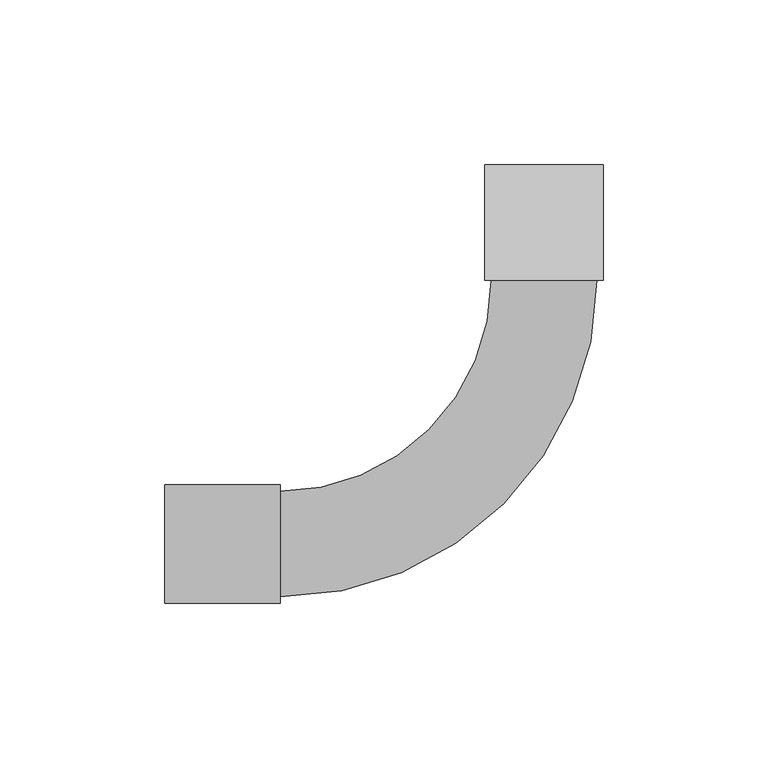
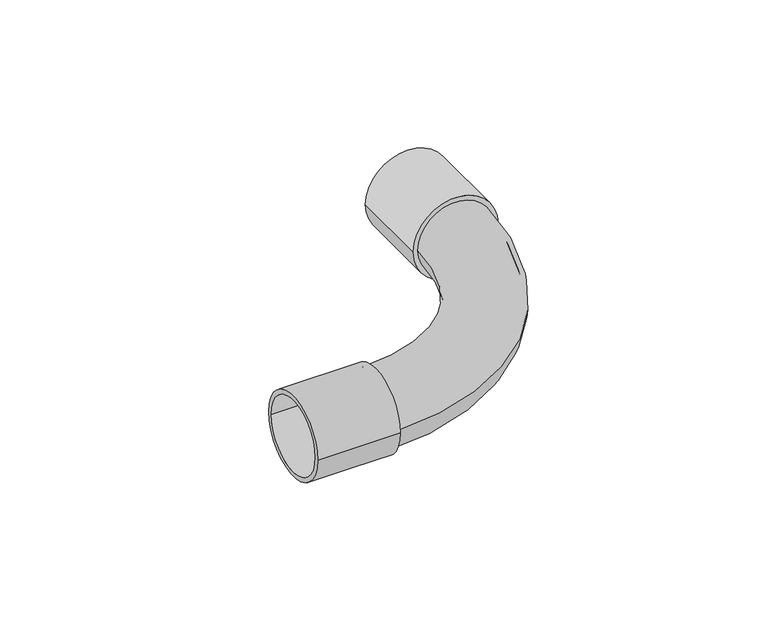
"""IFC4 building model written with IfcOpenShell, lengths in millimetres: cable carrier fitting geometry."""

from ifc_helpers import new_model, si_unit, point, frame, origin, origin_2d, place, context, project, spatial, circle_curve, ellipse_curve, trimmed, segment, composite_curve, outline, extrude, source, transform, mapped, element, save
from ifc_brep_helpers import plane_surface, revolved_surface, advanced_brep


def cable_carrier_fitting_b4ac2e59(model_context):
    return source(origin(), model_context, "Body", "SolidModel", [
        advanced_brep(
        [(-80.0, -16.0, 0.0), (-80.0, 16.0, 0.0), (-80.0, -14.0, 0.0), (-80.0, 14.0, 0.0), (16.0, 80.0, 0.0), (-16.0, 80.0, 0.0), (14.0, 80.0, 0.0), (-14.0, 80.0, 0.0)],
        [
            (0, 1, circle_curve(frame((-80.0, 0.0, 0.0), z_axis=(-1.0, 0.0, 0.0), x_axis=(0.0, 1.0, 0.0)), 16.0)),
            (1, 0, circle_curve(frame((-80.0, 0.0, 0.0), z_axis=(-1.0, 0.0, 0.0), x_axis=(0.0, 1.0, 0.0)), 16.0)),
            (2, 3, circle_curve(frame((-80.0, 0.0, 0.0), z_axis=(1.0, 0.0, 0.0), x_axis=(0.0, 1.0, 0.0)), 14.0)),
            (3, 2, circle_curve(frame((-80.0, 0.0, 0.0), z_axis=(1.0, 0.0, 0.0), x_axis=(0.0, 1.0, 0.0)), 14.0)),
            (4, 5, circle_curve(frame((0.0, 80.0, 0.0), z_axis=(0.0, 1.0, 0.0), x_axis=(-1.0, 0.0, 0.0)), 16.0)),
            (5, 4, circle_curve(frame((0.0, 80.0, 0.0), z_axis=(0.0, 1.0, 0.0), x_axis=(-1.0, 0.0, 0.0)), 16.0)),
            (6, 7, circle_curve(frame((0.0, 80.0, 0.0), z_axis=(0.0, -1.0, 0.0), x_axis=(-1.0, 0.0, 0.0)), 14.0)),
            (7, 6, circle_curve(frame((0.0, 80.0, 0.0), z_axis=(0.0, -1.0, 0.0), x_axis=(-1.0, 0.0, 0.0)), 14.0)),
            (5, 1, circle_curve(frame((-80.0, 80.0, 0.0), z_axis=(0.0, 0.0, -1.0), x_axis=(0.0, -1.0, 0.0)), 64.0)),
            (0, 4, circle_curve(frame((-80.0, 80.0, 0.0), z_axis=(0.0, 0.0, 1.0), x_axis=(0.0, -1.0, 0.0)), 96.0)),
            (7, 3, circle_curve(frame((-80.0, 80.0, 0.0), z_axis=(0.0, 0.0, -1.0), x_axis=(0.0, -1.0, 0.0)), 66.0)),
            (2, 6, circle_curve(frame((-80.0, 80.0, 0.0), z_axis=(0.0, 0.0, 1.0), x_axis=(0.0, -1.0, 0.0)), 94.0)),
        ],
        [
            plane_surface(frame((-80.0, 0.0, 0.0), z_axis=(-1.0, 0.0, 0.0), x_axis=(0.0, 0.0, 1.0))),
            plane_surface(frame((0.0, 80.0, 0.0), z_axis=(0.0, 1.0, 0.0), x_axis=(0.0, 0.0, 1.0))),
            revolved_surface(trimmed(ellipse_curve(frame((-80.0, 0.0, 0.0), z_axis=(-1.0, 0.0, 0.0), x_axis=(0.0, 1.0, 0.0)), 16.0, 16.0), [point((-80.0, -16.0, 0.0))], [point((-80.0, 16.0, 0.0))], True, "CARTESIAN"), (-80.0, 80.0, 0.0), (0.0, 0.0, 1.0)),
            revolved_surface(trimmed(ellipse_curve(frame((-80.0, 0.0, 0.0), z_axis=(-1.0, 0.0, 0.0), x_axis=(0.0, 1.0, 0.0)), 16.0, 16.0), [point((-80.0, 16.0, 0.0))], [point((-80.0, -16.0, 0.0))], True, "CARTESIAN"), (-80.0, 80.0, 0.0), (0.0, 0.0, 1.0)),
            revolved_surface(trimmed(ellipse_curve(frame((-80.0, 0.0, 0.0), z_axis=(1.0, 0.0, 0.0), x_axis=(0.0, 1.0, 0.0)), 14.0, 14.0), [point((-80.0, -14.0, 0.0))], [point((-80.0, 14.0, 0.0))], True, "CARTESIAN"), (-80.0, 80.0, 0.0), (0.0, 0.0, 1.0)),
            revolved_surface(trimmed(ellipse_curve(frame((-80.0, 0.0, 0.0), z_axis=(1.0, 0.0, 0.0), x_axis=(0.0, 1.0, 0.0)), 14.0, 14.0), [point((-80.0, 14.0, 0.0))], [point((-80.0, -14.0, 0.0))], True, "CARTESIAN"), (-80.0, 80.0, 0.0), (0.0, 0.0, 1.0)),
        ],
        [
            (0, [[1, 2], [3, 4]]),
            (1, [[5, 6], [7, 8]]),
            (2, [[9, -1, 10, -6]]),
            (3, [[-10, -2, -9, -5]]),
            (4, [[11, -3, 12, -8]]),
            (5, [[-12, -4, -11, -7]]),
        ],
    ),
        extrude(outline(composite_curve([segment(trimmed(circle_curve(origin_2d(), 18.0), [point((0.0, 18.0))], [point((0.0, -18.0))], False, "CARTESIAN"), True, "CONTINUOUS"), segment(trimmed(circle_curve(origin_2d(), 18.0), [point((0.0, -18.0))], [point((0.0, 18.0))], False, "CARTESIAN"), True, "CONTINUOUS")], self_intersect=False), holes=[composite_curve([segment(trimmed(circle_curve(origin_2d(), 16.0), [point((0.0, 16.0))], [point((0.0, -16.0))], True, "CARTESIAN"), True, "CONTINUOUS"), segment(trimmed(circle_curve(origin_2d(), 16.0), [point((0.0, -16.0))], [point((0.0, 16.0))], True, "CARTESIAN"), True, "CONTINUOUS")], self_intersect=False)]), frame((0.0, 80.0, 0.0), z_axis=(0.0, 1.0, 0.0), x_axis=(0.0, 0.0, 1.0)), (0.0, 0.0, 1.0), 35.0),
        extrude(outline(composite_curve([segment(trimmed(circle_curve(origin_2d(), 18.0), [point((-18.0, 0.0))], [point((18.0, 0.0))], False, "CARTESIAN"), True, "CONTINUOUS"), segment(trimmed(circle_curve(origin_2d(), 18.0), [point((18.0, 0.0))], [point((-18.0, 0.0))], False, "CARTESIAN"), True, "CONTINUOUS")], self_intersect=False), holes=[composite_curve([segment(trimmed(circle_curve(origin_2d(), 16.0), [point((-16.0, 0.0))], [point((16.0, 0.0))], True, "CARTESIAN"), True, "CONTINUOUS"), segment(trimmed(circle_curve(origin_2d(), 16.0), [point((16.0, 0.0))], [point((-16.0, 0.0))], True, "CARTESIAN"), True, "CONTINUOUS")], self_intersect=False)]), frame((-115.0, 0.0, 0.0), z_axis=(1.0, 0.0, 0.0), x_axis=(0.0, 1.0, 0.0)), (0.0, 0.0, 1.0), 35.0),
    ])


if __name__ == "__main__":
    model = new_model("IFC4")
    model_context = context("Model", 3, world=origin())
    ifc_project = project(units=[si_unit("LENGTHUNIT", "METRE", prefix="MILLI")], contexts=[model_context])
    site = spatial("IfcSite", under=ifc_project)
    building = spatial("IfcBuilding", under=site)
    placement = place(None, origin())
    cable_carrier_fitting_shape = cable_carrier_fitting_b4ac2e59(model_context)
    element("IfcCableCarrierFitting", 1, at=placement, inside=building, context=model_context, shape_type="MappedRepresentation", body=[
        mapped(cable_carrier_fitting_shape, transform((0.0, 0.0, 0.0), x_axis=(1.0, 0.0, 0.0), y_axis=(0.0, 1.0, 0.0), z_axis=(0.0, 0.0, 1.0))),
    ])
    save(model, "model.ifc")
